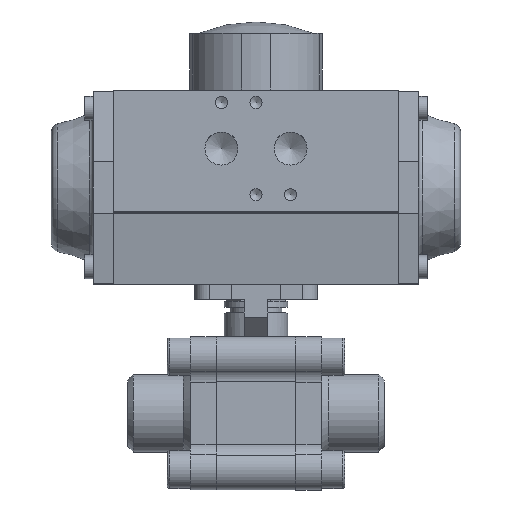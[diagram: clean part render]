
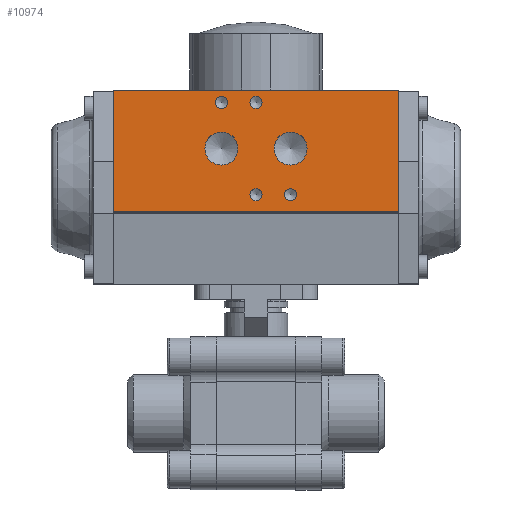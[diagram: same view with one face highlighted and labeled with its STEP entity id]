
A CAD part, top view. The second image highlights one B-rep face of the part: STEP entity #10974.
In plain terms, the highlighted planar face has unit normal (0, 0, 1) as drawn and (1, 0, 0) by its records, which use the part's own axes.
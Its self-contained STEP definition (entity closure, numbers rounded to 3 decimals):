
#72 = CIRCLE ( 'NONE', #3670, 2.1 ) ;
#222 = VERTEX_POINT ( 'NONE', #4160 ) ;
#253 = DIRECTION ( 'NONE',  ( 1., 0., 0. ) ) ;
#256 = EDGE_LOOP ( 'NONE', ( #868 ) ) ;
#671 = EDGE_LOOP ( 'NONE', ( #6940 ) ) ;
#673 = DIRECTION ( 'NONE',  ( 0., 0., -1. ) ) ;
#868 = ORIENTED_EDGE ( 'NONE', *, *, #7549, .F. ) ;
#1116 = ORIENTED_EDGE ( 'NONE', *, *, #9641, .T. ) ;
#1152 = VERTEX_POINT ( 'NONE', #4982 ) ;
#1352 = CIRCLE ( 'NONE', #2945, 5.722 ) ;
#1462 = CARTESIAN_POINT ( 'NONE',  ( 36., 29.5, -2.1 ) ) ;
#1622 = DIRECTION ( 'NONE',  ( 1., 0., 0. ) ) ;
#1757 = LINE ( 'NONE', #10470, #2429 ) ;
#2028 = ORIENTED_EDGE ( 'NONE', *, *, #5993, .F. ) ;
#2112 = ORIENTED_EDGE ( 'NONE', *, *, #9371, .F. ) ;
#2237 = DIRECTION ( 'NONE',  ( 0., 1., 0. ) ) ;
#2429 = VECTOR ( 'NONE', #8423, 1000. ) ;
#2558 = LINE ( 'NONE', #4324, #2651 ) ;
#2588 = CARTESIAN_POINT ( 'NONE',  ( 36., 29.5, 9.9 ) ) ;
#2608 = EDGE_LOOP ( 'NONE', ( #10152 ) ) ;
#2651 = VECTOR ( 'NONE', #10956, 1000. ) ;
#2666 = AXIS2_PLACEMENT_3D ( 'NONE', #5888, #253, #4121 ) ;
#2793 = EDGE_LOOP ( 'NONE', ( #11230 ) ) ;
#2815 = DIRECTION ( 'NONE',  ( 0., 0., -1. ) ) ;
#2907 = VERTEX_POINT ( 'NONE', #9050 ) ;
#2945 = AXIS2_PLACEMENT_3D ( 'NONE', #3679, #10217, #11254 ) ;
#3183 = CIRCLE ( 'NONE', #6415, 2.1 ) ;
#3237 = CIRCLE ( 'NONE', #3635, 2.1 ) ;
#3240 = VERTEX_POINT ( 'NONE', #3603 ) ;
#3295 = FACE_OUTER_BOUND ( 'NONE', #11347, .T. ) ;
#3603 = CARTESIAN_POINT ( 'NONE',  ( 36., -8.5, 49.5 ) ) ;
#3635 = AXIS2_PLACEMENT_3D ( 'NONE', #11188, #1622, #673 ) ;
#3670 = AXIS2_PLACEMENT_3D ( 'NONE', #7448, #5553, #6566 ) ;
#3679 = CARTESIAN_POINT ( 'NONE',  ( 36., 13.5, 12. ) ) ;
#3688 = EDGE_CURVE ( 'NONE', #7626, #7626, #3183, .T. ) ;
#3890 = EDGE_LOOP ( 'NONE', ( #6592 ) ) ;
#4121 = DIRECTION ( 'NONE',  ( 0., 0., -1. ) ) ;
#4160 = CARTESIAN_POINT ( 'NONE',  ( 36., 13.5, -17.722 ) ) ;
#4324 = CARTESIAN_POINT ( 'NONE',  ( 36., 33.5, -49.5 ) ) ;
#4719 = CARTESIAN_POINT ( 'NONE',  ( 36., -2.5, -12. ) ) ;
#4982 = CARTESIAN_POINT ( 'NONE',  ( 36., -2.5, -2.1 ) ) ;
#5071 = FACE_BOUND ( 'NONE', #2793, .T. ) ;
#5092 = EDGE_CURVE ( 'NONE', #7887, #3240, #5951, .T. ) ;
#5553 = DIRECTION ( 'NONE',  ( 1., 0., 0. ) ) ;
#5715 = DIRECTION ( 'NONE',  ( 0., 0., -1. ) ) ;
#5888 = CARTESIAN_POINT ( 'NONE',  ( 36., -8.5, -49.5 ) ) ;
#5921 = VERTEX_POINT ( 'NONE', #7818 ) ;
#5936 = ORIENTED_EDGE ( 'NONE', *, *, #5092, .F. ) ;
#5951 = LINE ( 'NONE', #10896, #9511 ) ;
#5957 = AXIS2_PLACEMENT_3D ( 'NONE', #10521, #7589, #2815 ) ;
#5993 = EDGE_CURVE ( 'NONE', #222, #222, #11694, .T. ) ;
#6068 = LINE ( 'NONE', #10822, #11397 ) ;
#6130 = FACE_BOUND ( 'NONE', #671, .T. ) ;
#6227 = CARTESIAN_POINT ( 'NONE',  ( 36., -8.5, -49.5 ) ) ;
#6415 = AXIS2_PLACEMENT_3D ( 'NONE', #4719, #10244, #7617 ) ;
#6566 = DIRECTION ( 'NONE',  ( 0., 0., -1. ) ) ;
#6592 = ORIENTED_EDGE ( 'NONE', *, *, #7471, .F. ) ;
#6716 = CARTESIAN_POINT ( 'NONE',  ( 36., 13.5, -12. ) ) ;
#6940 = ORIENTED_EDGE ( 'NONE', *, *, #3688, .F. ) ;
#7030 = DIRECTION ( 'NONE',  ( 0., 0., 1. ) ) ;
#7367 = VERTEX_POINT ( 'NONE', #2588 ) ;
#7448 = CARTESIAN_POINT ( 'NONE',  ( 36., 29.5, 12. ) ) ;
#7471 = EDGE_CURVE ( 'NONE', #5921, #5921, #1352, .T. ) ;
#7549 = EDGE_CURVE ( 'NONE', #1152, #1152, #9971, .T. ) ;
#7589 = DIRECTION ( 'NONE',  ( 1., 0., 0. ) ) ;
#7617 = DIRECTION ( 'NONE',  ( 0., 0., -1. ) ) ;
#7626 = VERTEX_POINT ( 'NONE', #10430 ) ;
#7818 = CARTESIAN_POINT ( 'NONE',  ( 36., 13.5, 6.277 ) ) ;
#7887 = VERTEX_POINT ( 'NONE', #6227 ) ;
#7940 = ORIENTED_EDGE ( 'NONE', *, *, #9135, .T. ) ;
#7967 = FACE_BOUND ( 'NONE', #3890, .T. ) ;
#8423 = DIRECTION ( 'NONE',  ( 0., 1., 0. ) ) ;
#9050 = CARTESIAN_POINT ( 'NONE',  ( 36., 33.5, -49.5 ) ) ;
#9135 = EDGE_CURVE ( 'NONE', #2907, #10163, #2558, .T. ) ;
#9221 = EDGE_CURVE ( 'NONE', #10058, #10058, #3237, .T. ) ;
#9371 = EDGE_CURVE ( 'NONE', #3240, #10163, #6068, .T. ) ;
#9511 = VECTOR ( 'NONE', #7030, 1000. ) ;
#9641 = EDGE_CURVE ( 'NONE', #7887, #2907, #1757, .T. ) ;
#9725 = AXIS2_PLACEMENT_3D ( 'NONE', #6716, #10466, #5715 ) ;
#9935 = EDGE_LOOP ( 'NONE', ( #2028 ) ) ;
#9957 = FACE_BOUND ( 'NONE', #256, .T. ) ;
#9971 = CIRCLE ( 'NONE', #5957, 2.1 ) ;
#10058 = VERTEX_POINT ( 'NONE', #1462 ) ;
#10152 = ORIENTED_EDGE ( 'NONE', *, *, #9221, .F. ) ;
#10163 = VERTEX_POINT ( 'NONE', #11406 ) ;
#10217 = DIRECTION ( 'NONE',  ( 1., 0., 0. ) ) ;
#10244 = DIRECTION ( 'NONE',  ( 1., 0., 0. ) ) ;
#10430 = CARTESIAN_POINT ( 'NONE',  ( 36., -2.5, -14.1 ) ) ;
#10466 = DIRECTION ( 'NONE',  ( 1., 0., 0. ) ) ;
#10470 = CARTESIAN_POINT ( 'NONE',  ( 36., -8.5, -49.5 ) ) ;
#10521 = CARTESIAN_POINT ( 'NONE',  ( 36., -2.5, 0. ) ) ;
#10710 = FACE_BOUND ( 'NONE', #2608, .T. ) ;
#10822 = CARTESIAN_POINT ( 'NONE',  ( 36., -8.5, 49.5 ) ) ;
#10896 = CARTESIAN_POINT ( 'NONE',  ( 36., -8.5, -49.5 ) ) ;
#10956 = DIRECTION ( 'NONE',  ( 0., 0., 1. ) ) ;
#10974 = ADVANCED_FACE ( 'NONE', ( #5071, #6130, #9957, #10710, #11857, #7967, #3295 ), #11735, .T. ) ;
#11188 = CARTESIAN_POINT ( 'NONE',  ( 36., 29.5, 0. ) ) ;
#11230 = ORIENTED_EDGE ( 'NONE', *, *, #11753, .F. ) ;
#11254 = DIRECTION ( 'NONE',  ( 0., 0., -1. ) ) ;
#11347 = EDGE_LOOP ( 'NONE', ( #7940, #2112, #5936, #1116 ) ) ;
#11397 = VECTOR ( 'NONE', #2237, 1000. ) ;
#11406 = CARTESIAN_POINT ( 'NONE',  ( 36., 33.5, 49.5 ) ) ;
#11694 = CIRCLE ( 'NONE', #9725, 5.722 ) ;
#11735 = PLANE ( 'NONE',  #2666 ) ;
#11753 = EDGE_CURVE ( 'NONE', #7367, #7367, #72, .T. ) ;
#11857 = FACE_BOUND ( 'NONE', #9935, .T. ) ;
